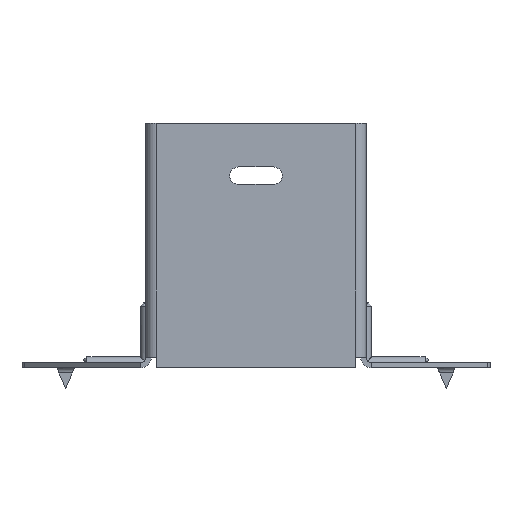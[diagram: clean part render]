
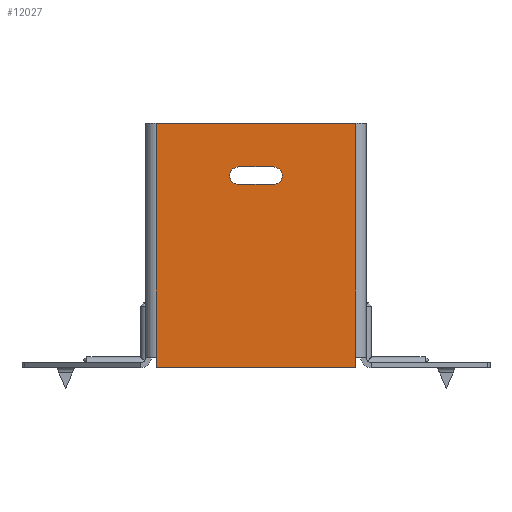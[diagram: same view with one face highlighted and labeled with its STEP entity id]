
A CAD part, front view. The second image highlights one B-rep face of the part: STEP entity #12027.
In plain terms, the highlighted planar face has unit normal (0, -1, 0).
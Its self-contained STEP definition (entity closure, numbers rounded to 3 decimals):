
#154 = LINE ( 'NONE', #9014, #2646 ) ;
#296 = CARTESIAN_POINT ( 'NONE',  ( 28.5, 0., -67. ) ) ;
#319 = VERTEX_POINT ( 'NONE', #13985 ) ;
#380 = CARTESIAN_POINT ( 'NONE',  ( -28.5, 0., 0. ) ) ;
#532 = LINE ( 'NONE', #13526, #906 ) ;
#647 = DIRECTION ( 'NONE',  ( -1., 0., 0. ) ) ;
#885 = EDGE_LOOP ( 'NONE', ( #11822, #12793, #4148, #13503, #14535, #5778 ) ) ;
#906 = VECTOR ( 'NONE', #14767, 1000. ) ;
#1082 = CARTESIAN_POINT ( 'NONE',  ( 5., 0., -15. ) ) ;
#1464 = DIRECTION ( 'NONE',  ( 1., 0., 0. ) ) ;
#1742 = CARTESIAN_POINT ( 'NONE',  ( -5., 0., -17.5 ) ) ;
#2013 = LINE ( 'NONE', #13586, #4098 ) ;
#2646 = VECTOR ( 'NONE', #15219, 1000. ) ;
#2916 = AXIS2_PLACEMENT_3D ( 'NONE', #4689, #13298, #5921 ) ;
#2955 = LINE ( 'NONE', #14754, #11576 ) ;
#3169 = CARTESIAN_POINT ( 'NONE',  ( 0., 0., 0. ) ) ;
#3404 = VECTOR ( 'NONE', #4909, 1000. ) ;
#3502 = EDGE_CURVE ( 'NONE', #8923, #14653, #2013, .T. ) ;
#3945 = EDGE_CURVE ( 'NONE', #6585, #6409, #8308, .T. ) ;
#4098 = VECTOR ( 'NONE', #1464, 1000. ) ;
#4115 = CARTESIAN_POINT ( 'NONE',  ( -28.5, 0., -70. ) ) ;
#4148 = ORIENTED_EDGE ( 'NONE', *, *, #9577, .F. ) ;
#4689 = CARTESIAN_POINT ( 'NONE',  ( -5., 0., -15. ) ) ;
#4890 = DIRECTION ( 'NONE',  ( 0., 0., -1. ) ) ;
#4909 = DIRECTION ( 'NONE',  ( 0., 0., -1. ) ) ;
#5341 = DIRECTION ( 'NONE',  ( 0., 0., 1. ) ) ;
#5778 = ORIENTED_EDGE ( 'NONE', *, *, #15645, .F. ) ;
#5921 = DIRECTION ( 'NONE',  ( 0., 0., 1. ) ) ;
#6133 = EDGE_CURVE ( 'NONE', #14653, #6546, #14613, .T. ) ;
#6294 = DIRECTION ( 'NONE',  ( 0., 1., 0. ) ) ;
#6409 = VERTEX_POINT ( 'NONE', #296 ) ;
#6546 = VERTEX_POINT ( 'NONE', #14160 ) ;
#6585 = VERTEX_POINT ( 'NONE', #6819 ) ;
#6738 = CARTESIAN_POINT ( 'NONE',  ( -5., 0., -17.5 ) ) ;
#6819 = CARTESIAN_POINT ( 'NONE',  ( 28.5, 0., -70. ) ) ;
#7148 = ORIENTED_EDGE ( 'NONE', *, *, #3502, .T. ) ;
#7333 = VECTOR ( 'NONE', #647, 1000. ) ;
#8096 = EDGE_CURVE ( 'NONE', #12955, #319, #8782, .T. ) ;
#8217 = CARTESIAN_POINT ( 'NONE',  ( 5., 0., -12.5 ) ) ;
#8237 = AXIS2_PLACEMENT_3D ( 'NONE', #1082, #6294, #14819 ) ;
#8308 = LINE ( 'NONE', #12429, #9650 ) ;
#8648 = DIRECTION ( 'NONE',  ( 0., 0., 1. ) ) ;
#8665 = LINE ( 'NONE', #6738, #7333 ) ;
#8686 = CIRCLE ( 'NONE', #2916, 2.5 ) ;
#8720 = EDGE_CURVE ( 'NONE', #6409, #15053, #154, .T. ) ;
#8722 = CARTESIAN_POINT ( 'NONE',  ( -28.5, 0., 0. ) ) ;
#8768 = FACE_BOUND ( 'NONE', #13527, .T. ) ;
#8782 = LINE ( 'NONE', #8722, #3404 ) ;
#8923 = VERTEX_POINT ( 'NONE', #15789 ) ;
#9014 = CARTESIAN_POINT ( 'NONE',  ( 28.5, 0., -70. ) ) ;
#9045 = ORIENTED_EDGE ( 'NONE', *, *, #15733, .T. ) ;
#9577 = EDGE_CURVE ( 'NONE', #6585, #12001, #532, .T. ) ;
#9637 = LINE ( 'NONE', #15714, #14477 ) ;
#9650 = VECTOR ( 'NONE', #8648, 1000. ) ;
#10188 = VERTEX_POINT ( 'NONE', #1742 ) ;
#10344 = DIRECTION ( 'NONE',  ( 0., 1., 0. ) ) ;
#11576 = VECTOR ( 'NONE', #4890, 1000. ) ;
#11607 = AXIS2_PLACEMENT_3D ( 'NONE', #3169, #10344, #5341 ) ;
#11806 = ORIENTED_EDGE ( 'NONE', *, *, #6133, .T. ) ;
#11822 = ORIENTED_EDGE ( 'NONE', *, *, #8096, .T. ) ;
#11902 = DIRECTION ( 'NONE',  ( 1., 0., 0. ) ) ;
#12001 = VERTEX_POINT ( 'NONE', #4115 ) ;
#12027 = ADVANCED_FACE ( 'NONE', ( #8768, #14560 ), #14186, .F. ) ;
#12429 = CARTESIAN_POINT ( 'NONE',  ( 28.5, 0., -70. ) ) ;
#12793 = ORIENTED_EDGE ( 'NONE', *, *, #14843, .T. ) ;
#12800 = CARTESIAN_POINT ( 'NONE',  ( 28.5, 0., 0. ) ) ;
#12955 = VERTEX_POINT ( 'NONE', #380 ) ;
#13298 = DIRECTION ( 'NONE',  ( 0., 1., 0. ) ) ;
#13503 = ORIENTED_EDGE ( 'NONE', *, *, #3945, .T. ) ;
#13526 = CARTESIAN_POINT ( 'NONE',  ( -30., 0., -70. ) ) ;
#13527 = EDGE_LOOP ( 'NONE', ( #13710, #9045, #7148, #11806 ) ) ;
#13586 = CARTESIAN_POINT ( 'NONE',  ( -5., 0., -12.5 ) ) ;
#13710 = ORIENTED_EDGE ( 'NONE', *, *, #15558, .T. ) ;
#13985 = CARTESIAN_POINT ( 'NONE',  ( -28.5, 0., -67. ) ) ;
#14160 = CARTESIAN_POINT ( 'NONE',  ( 5., 0., -17.5 ) ) ;
#14186 = PLANE ( 'NONE',  #11607 ) ;
#14477 = VECTOR ( 'NONE', #11902, 1000. ) ;
#14535 = ORIENTED_EDGE ( 'NONE', *, *, #8720, .T. ) ;
#14560 = FACE_OUTER_BOUND ( 'NONE', #885, .T. ) ;
#14613 = CIRCLE ( 'NONE', #8237, 2.5 ) ;
#14653 = VERTEX_POINT ( 'NONE', #8217 ) ;
#14754 = CARTESIAN_POINT ( 'NONE',  ( -28.5, 0., 0. ) ) ;
#14767 = DIRECTION ( 'NONE',  ( -1., 0., 0. ) ) ;
#14819 = DIRECTION ( 'NONE',  ( 0., 0., 1. ) ) ;
#14843 = EDGE_CURVE ( 'NONE', #319, #12001, #2955, .T. ) ;
#15053 = VERTEX_POINT ( 'NONE', #12800 ) ;
#15219 = DIRECTION ( 'NONE',  ( 0., 0., 1. ) ) ;
#15558 = EDGE_CURVE ( 'NONE', #6546, #10188, #8665, .T. ) ;
#15645 = EDGE_CURVE ( 'NONE', #12955, #15053, #9637, .T. ) ;
#15714 = CARTESIAN_POINT ( 'NONE',  ( -30., 0., 0. ) ) ;
#15733 = EDGE_CURVE ( 'NONE', #10188, #8923, #8686, .T. ) ;
#15789 = CARTESIAN_POINT ( 'NONE',  ( -5., 0., -12.5 ) ) ;
